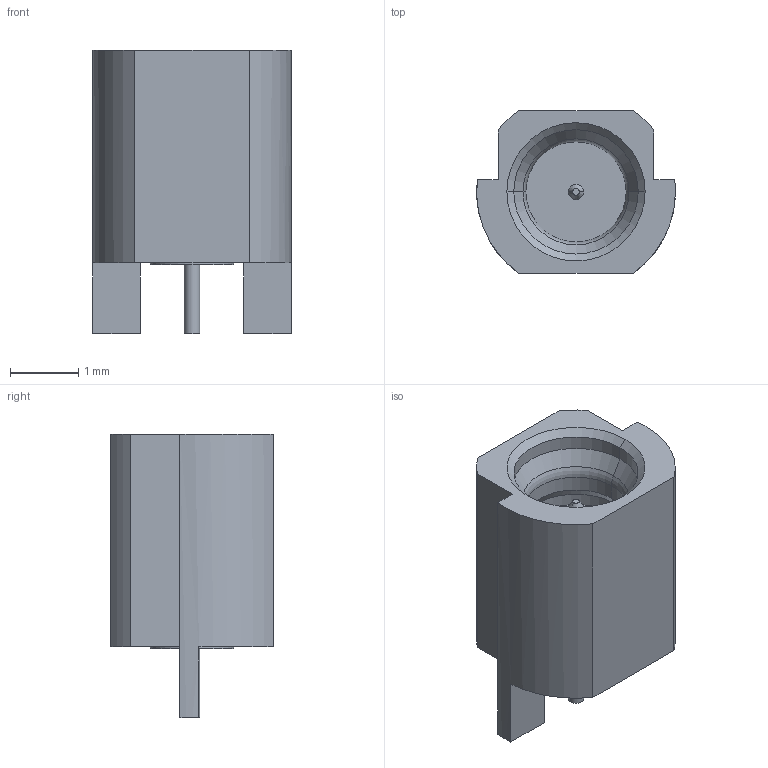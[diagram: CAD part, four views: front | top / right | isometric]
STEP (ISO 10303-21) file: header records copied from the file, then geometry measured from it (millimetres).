
FILE_DESCRIPTION (( 'STEP AP214' ), '1' );
FILE_NAME ('3811-40003.STEP', '2015-10-15T19:15:59', ( '' ), ( '' ), 'SwSTEP 2.0', 'SolidWorks 2015', '' );
FILE_SCHEMA (( 'AUTOMOTIVE_DESIGN' ));
Length unit declared in the file: inch
Products named in the file (1): 3811-40003
Bounding box: 2.92 x 2.39 x 4.17 mm (x, y, z)
Volume: 16 mm3; surface area: 52.2 mm2
Topology: 1 solids, 1 shells, 45 faces, 103 edges, 64 vertices
Faces by surface type: plane 18, cylinder 17, cone 8, torus 2
Entity records: 1894 total; most frequent: DIRECTION 239, CARTESIAN_POINT 213, ORIENTED_EDGE 206, EDGE_CURVE 103, AXIS2_PLACEMENT_3D 90, VERTEX_POINT 64, VECTOR 59, LINE 59
